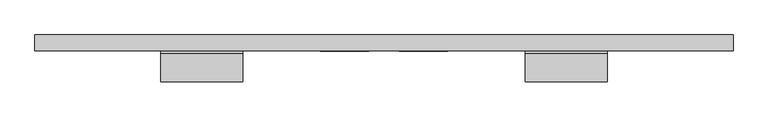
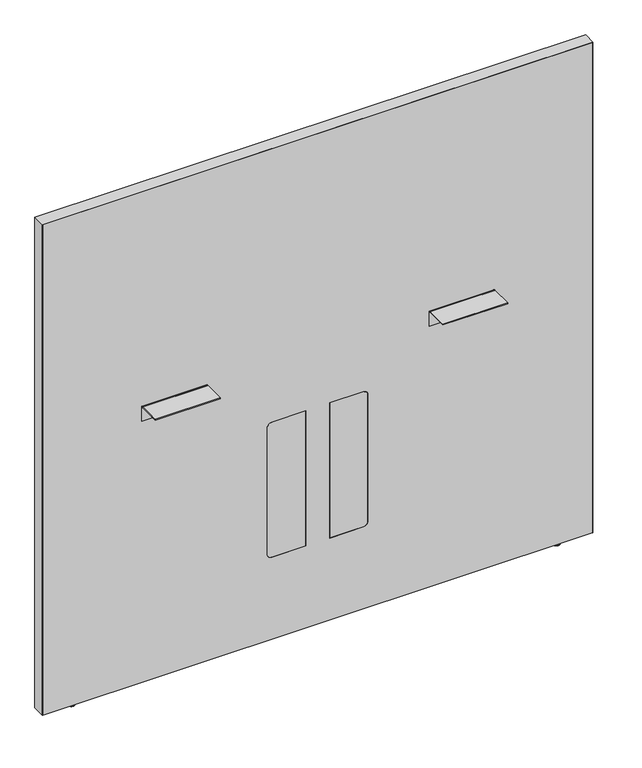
"""IFC4 building model written with IfcOpenShell, lengths in millimetres: furniture geometry, Steelcase - Answer Solution - Boundary Screen - Straight - Spanning : 48H x 51W."""

from ifc_helpers import new_model, si_unit, point, frame, frame_2d, origin, place, context, project, spatial, polyline, circle_curve, ellipse_curve, trimmed, segment, composite_curve, outline, extrude, source, transform, mapped, element, save
from ifc_brep_helpers import plane_surface, cylinder_surface, revolved_surface, advanced_brep


def furniture_ec1c2e94(model_context):
    return source(origin(), model_context, "Body", "SolidModel", [
        advanced_brep(
        [(-340.6902705, -14.8449166, 9.9059849), (-340.6902705, -5.9309607, 9.9059849), (-340.6902705, -23.7588726, 9.9059849), (-340.6902705, -5.9309607, 2.9673238), (-340.6902705, -23.7588726, 2.9673238), (-340.6902705, -6.8982978, 2.9673238), (-340.6902705, -22.7915354, 2.9673238), (-340.6902705, -6.8982978, 1.6569081), (-340.6902705, -22.7915354, 1.6569081), (-340.6902705, -8.5552059, 0.0), (-340.6902705, -21.1346274, 0.0), (-340.6902705, -14.8449166, 0.0)],
        [
            (0, 1),
            (1, 2, circle_curve(frame((-340.6902705, -14.8449166, 9.9059849), z_axis=(0.0, 0.0, 1.0), x_axis=(0.0, 1.0, 0.0)), 8.913956)),
            (2, 0),
            (2, 1, circle_curve(frame((-340.6902705, -14.8449166, 9.9059849), z_axis=(0.0, 0.0, 1.0), x_axis=(0.0, 1.0, 0.0)), 8.913956)),
            (1, 3),
            (3, 4, circle_curve(frame((-340.6902705, -14.8449166, 2.9673238), z_axis=(0.0, 0.0, 1.0), x_axis=(0.0, 1.0, 0.0)), 8.913956)),
            (4, 2),
            (4, 3, circle_curve(frame((-340.6902705, -14.8449166, 2.9673238), z_axis=(0.0, 0.0, 1.0), x_axis=(0.0, 1.0, 0.0)), 8.913956)),
            (3, 5),
            (5, 6, circle_curve(frame((-340.6902705, -14.8449166, 2.9673238), z_axis=(0.0, 0.0, 1.0), x_axis=(0.0, 1.0, 0.0)), 7.9466188)),
            (6, 4),
            (6, 5, circle_curve(frame((-340.6902705, -14.8449166, 2.9673238), z_axis=(0.0, 0.0, 1.0), x_axis=(0.0, 1.0, 0.0)), 7.9466188)),
            (5, 7),
            (7, 8, circle_curve(frame((-340.6902705, -14.8449166, 1.6569081), z_axis=(0.0, 0.0, 1.0), x_axis=(0.0, 1.0, 0.0)), 7.9466188)),
            (8, 6),
            (8, 7, circle_curve(frame((-340.6902705, -14.8449166, 1.6569081), z_axis=(0.0, 0.0, 1.0), x_axis=(0.0, 1.0, 0.0)), 7.9466188)),
            (7, 9, circle_curve(frame((-340.6902705, -8.5552059, 1.6569081), z_axis=(-1.0, 0.0, 0.0), x_axis=(0.0, 1.0, 0.0)), 1.6569081)),
            (9, 10, circle_curve(frame((-340.6902705, -14.8449166, 0.0), z_axis=(0.0, 0.0, 1.0), x_axis=(0.0, 1.0, 0.0)), 6.2897107)),
            (10, 8, circle_curve(frame((-340.6902705, -21.1346274, 1.6569081), z_axis=(-1.0, 0.0, 0.0), x_axis=(0.0, -1.0, 0.0)), 1.6569081)),
            (10, 9, circle_curve(frame((-340.6902705, -14.8449166, 0.0), z_axis=(0.0, 0.0, 1.0), x_axis=(0.0, 1.0, 0.0)), 6.2897107)),
            (9, 11),
            (11, 10),
        ],
        [
            plane_surface(frame((-340.6902705, -14.8449166, 9.9059849), z_axis=(0.0, 0.0, 1.0), x_axis=(0.0, 1.0, 0.0))),
            cylinder_surface(frame((-340.6902705, -14.8449166, 9.9059849), z_axis=(0.0, 0.0, 1.0), x_axis=(0.0, 1.0, 0.0)), 8.913956),
            plane_surface(frame((-340.6902705, -14.8449166, 2.9673238), z_axis=(0.0, 0.0, -1.0), x_axis=(0.0, 1.0, 0.0))),
            cylinder_surface(frame((-340.6902705, -14.8449166, 9.9059849), z_axis=(0.0, 0.0, 1.0), x_axis=(0.0, 1.0, 0.0)), 7.9466188),
            revolved_surface(trimmed(ellipse_curve(frame((-340.6902705, -8.5552059, 1.6569081), z_axis=(1.0, 0.0, 0.0), x_axis=(0.0, 1.0, 0.0)), 1.6569081, 1.6569081), [point((-340.6902705, -8.5552059, 0.0))], [point((-340.6902705, -6.8982978, 1.6569081))], True, "CARTESIAN"), (-340.6902705, -14.8449166, 9.9059849), (0.0, 0.0, 1.0)),
            plane_surface(frame((-340.6902705, -14.8449166, 0.0), z_axis=(0.0, 0.0, -1.0), x_axis=(0.0, 1.0, 0.0))),
        ],
        [
            (0, [[1, 2, 3]]),
            (0, [[-3, 4, -1]]),
            (1, [[-2, 5, 6, 7]]),
            (1, [[-4, -7, 8, -5]]),
            (2, [[-6, 9, 10, 11]]),
            (2, [[-8, -11, 12, -9]]),
            (3, [[-10, 13, 14, 15]]),
            (3, [[-12, -15, 16, -13]]),
            (4, [[-14, 17, 18, 19]]),
            (4, [[-16, -19, 20, -17]]),
            (5, [[-18, 21, 22]]),
            (5, [[-20, -22, -21]]),
        ],
    ),
        extrude(outline(composite_curve([segment(polyline([(-86.8398151, 696.4680019), (-86.8398151, 698.5), (-34.9450855, 698.5)]), True, "CONTINUOUS"), segment(trimmed(circle_curve(frame_2d((-34.9450855, 693.2447477)), 5.2552523), [point((-34.9450855, 698.5))], [point((-29.6898332, 693.2447477))], False, "CARTESIAN"), True, "CONTINUOUS"), segment(polyline([(-29.6898332, 693.2447477), (-29.6898332, 660.4), (-31.7218162, 660.4), (-31.7218162, 693.0058743)]), True, "CONTINUOUS"), segment(trimmed(circle_curve(frame_2d((-35.1839438, 693.0058743)), 3.4621276), [point((-31.7218162, 693.0058743))], [point((-35.1839438, 696.4680019))], True, "CARTESIAN"), True, "CONTINUOUS"), segment(polyline([(-35.1839438, 696.4680019), (-86.8398151, 696.4680019)]), True, "CONTINUOUS")], self_intersect=False)), frame((491.6282189, 0.0, 0.0), z_axis=(1.0, 0.0, 0.0), x_axis=(0.0, 1.0, 0.0)), (0.0, 0.0, 1.0), 152.4000969),
        extrude(outline(composite_curve([segment(polyline([(-86.8398151, 696.4680019), (-86.8398151, 698.5), (-34.9450855, 698.5)]), True, "CONTINUOUS"), segment(trimmed(circle_curve(frame_2d((-34.9450855, 693.2447477)), 5.2552523), [point((-34.9450855, 698.5))], [point((-29.6898332, 693.2447477))], False, "CARTESIAN"), True, "CONTINUOUS"), segment(polyline([(-29.6898332, 693.2447477), (-29.6898332, 660.4), (-31.7218162, 660.4), (-31.7218162, 693.0058743)]), True, "CONTINUOUS"), segment(trimmed(circle_curve(frame_2d((-35.1839438, 693.0058743)), 3.4621276), [point((-31.7218162, 693.0058743))], [point((-35.1839438, 696.4680019))], True, "CARTESIAN"), True, "CONTINUOUS"), segment(polyline([(-35.1839438, 696.4680019), (-86.8398151, 696.4680019)]), True, "CONTINUOUS")], self_intersect=False)), frame((-184.3884581, 0.0, 0.0), z_axis=(1.0, 0.0, 0.0), x_axis=(0.0, 1.0, 0.0)), (0.0, 0.0, 1.0), 152.4000969),
        advanced_brep(
        [(800.3286488, -23.7588726, 9.9059849), (800.3286488, -5.9309607, 9.9059849), (800.3286488, -14.8449166, 9.9059849), (800.3286488, -23.7588726, 2.9673238), (800.3286488, -5.9309607, 2.9673238), (800.3286488, -22.7915354, 2.9673238), (800.3286488, -6.8982978, 2.9673238), (800.3286488, -22.7915354, 1.6569081), (800.3286488, -6.8982978, 1.6569081), (800.3286488, -21.1346274, 0.0), (800.3286488, -8.5552059, 0.0), (800.3286488, -14.8449166, 0.0)],
        [
            (0, 1, circle_curve(frame((800.3286488, -14.8449166, 9.9059849), z_axis=(0.0, 0.0, 1.0), x_axis=(0.0, 1.0, 0.0)), 8.913956)),
            (1, 2),
            (2, 0),
            (1, 0, circle_curve(frame((800.3286488, -14.8449166, 9.9059849), z_axis=(0.0, 0.0, 1.0), x_axis=(0.0, 1.0, 0.0)), 8.913956)),
            (3, 4, circle_curve(frame((800.3286488, -14.8449166, 2.9673238), z_axis=(0.0, 0.0, 1.0), x_axis=(0.0, 1.0, 0.0)), 8.913956)),
            (4, 1),
            (0, 3),
            (4, 3, circle_curve(frame((800.3286488, -14.8449166, 2.9673238), z_axis=(0.0, 0.0, 1.0), x_axis=(0.0, 1.0, 0.0)), 8.913956)),
            (5, 6, circle_curve(frame((800.3286488, -14.8449166, 2.9673238), z_axis=(0.0, 0.0, 1.0), x_axis=(0.0, 1.0, 0.0)), 7.9466188)),
            (6, 4),
            (3, 5),
            (6, 5, circle_curve(frame((800.3286488, -14.8449166, 2.9673238), z_axis=(0.0, 0.0, 1.0), x_axis=(0.0, 1.0, 0.0)), 7.9466188)),
            (7, 8, circle_curve(frame((800.3286488, -14.8449166, 1.6569081), z_axis=(0.0, 0.0, 1.0), x_axis=(0.0, 1.0, 0.0)), 7.9466188)),
            (8, 6),
            (5, 7),
            (8, 7, circle_curve(frame((800.3286488, -14.8449166, 1.6569081), z_axis=(0.0, 0.0, 1.0), x_axis=(0.0, 1.0, 0.0)), 7.9466188)),
            (9, 10, circle_curve(frame((800.3286488, -14.8449166, 0.0), z_axis=(0.0, 0.0, 1.0), x_axis=(0.0, 1.0, 0.0)), 6.2897107)),
            (10, 8, circle_curve(frame((800.3286488, -8.5552059, 1.6569081), z_axis=(1.0, 0.0, 0.0), x_axis=(0.0, 1.0, 0.0)), 1.6569081)),
            (7, 9, circle_curve(frame((800.3286488, -21.1346274, 1.6569081), z_axis=(1.0, 0.0, 0.0), x_axis=(0.0, -1.0, 0.0)), 1.6569081)),
            (10, 9, circle_curve(frame((800.3286488, -14.8449166, 0.0), z_axis=(0.0, 0.0, 1.0), x_axis=(0.0, 1.0, 0.0)), 6.2897107)),
            (11, 10),
            (9, 11),
        ],
        [
            plane_surface(frame((800.3286488, -14.8449166, 9.9059849), z_axis=(0.0, 0.0, 1.0), x_axis=(0.0, 1.0, 0.0))),
            cylinder_surface(frame((800.3286488, -14.8449166, 9.9059849), z_axis=(0.0, 0.0, -1.0), x_axis=(0.0, 1.0, 0.0)), 8.913956),
            plane_surface(frame((800.3286488, -14.8449166, 2.9673238), z_axis=(0.0, 0.0, -1.0), x_axis=(0.0, 1.0, 0.0))),
            cylinder_surface(frame((800.3286488, -14.8449166, 9.9059849), z_axis=(0.0, 0.0, -1.0), x_axis=(0.0, 1.0, 0.0)), 7.9466188),
            revolved_surface(trimmed(ellipse_curve(frame((800.3286488, -8.5552059, 1.6569081), z_axis=(-1.0, 0.0, 0.0), x_axis=(0.0, 1.0, 0.0)), 1.6569081, 1.6569081), [point((800.3286488, -6.8982978, 1.6569081))], [point((800.3286488, -8.5552059, 0.0))], True, "CARTESIAN"), (800.3286488, -14.8449166, 9.9059849), (0.0, 0.0, -1.0)),
            plane_surface(frame((800.3286488, -14.8449166, 0.0), z_axis=(0.0, 0.0, -1.0), x_axis=(0.0, 1.0, 0.0))),
        ],
        [
            (0, [[1, 2, 3]]),
            (0, [[4, -3, -2]]),
            (1, [[5, 6, -1, 7]]),
            (1, [[8, -7, -4, -6]]),
            (2, [[9, 10, -5, 11]]),
            (2, [[12, -11, -8, -10]]),
            (3, [[13, 14, -9, 15]]),
            (3, [[16, -15, -12, -14]]),
            (4, [[17, 18, -13, 19]]),
            (4, [[20, -19, -16, -18]]),
            (5, [[21, -17, 22]]),
            (5, [[-22, -20, -21]]),
        ],
    ),
        advanced_brep(
        [(876.4780168, 0.0, 1229.142118), (876.4780168, 0.0, 9.9059849), (-416.8902221, 0.0, 9.9059849), (-416.8902221, 0.0, 1229.142118), (876.4780168, -29.6898332, 1229.142118), (-416.8902221, -29.6898332, 1229.142118), (-416.8902221, -29.6898332, 9.9059849), (876.4780168, -29.6898332, 9.9059849), (337.7883813, -29.6898332, 549.6162029), (347.9483813, -29.6898332, 539.4562029), (347.9483813, -29.6898332, 223.9362137), (337.7883813, -29.6898332, 213.7762137), (258.1344836, -29.6898332, 213.7762137), (258.1344836, -29.6898332, 549.6162029), (121.849997, -29.6898332, 549.6162029), (201.5038947, -29.6898332, 549.6162029), (201.5038947, -29.6898332, 213.7762137), (121.849997, -29.6898332, 213.7762137), (111.689997, -29.6898332, 223.9362137), (111.689997, -29.6898332, 539.4562029), (258.1344836, -29.0550397, 549.6162029), (337.7883813, -29.0550397, 549.6162029), (258.1344836, -29.0550397, 213.7762137), (337.7883813, -29.0550397, 213.7762137), (347.9483813, -29.0550397, 223.9362137), (347.9483813, -29.0550397, 539.4562029), (121.849997, -29.0550397, 549.6162029), (111.689997, -29.0550397, 539.4562029), (111.689997, -29.0550397, 223.9362137), (121.849997, -29.0550397, 213.7762137), (201.5038947, -29.0550397, 213.7762137), (201.5038947, -29.0550397, 549.6162029)],
        [
            (0, 1),
            (1, 2),
            (2, 3),
            (3, 0),
            (4, 5),
            (5, 6),
            (6, 7),
            (7, 4),
            (8, 9, circle_curve(frame((337.7883813, -29.6898332, 539.4562029), z_axis=(0.0, 1.0, 0.0), x_axis=(0.0, 0.0, 1.0)), 10.16)),
            (9, 10),
            (10, 11, circle_curve(frame((337.7883813, -29.6898332, 223.9362137), z_axis=(0.0, 1.0, 0.0), x_axis=(0.0, 0.0, 1.0)), 10.16)),
            (11, 12),
            (12, 13),
            (13, 8),
            (14, 15),
            (15, 16),
            (16, 17),
            (17, 18, circle_curve(frame((121.849997, -29.6898332, 223.9362137), z_axis=(0.0, 1.0, 0.0), x_axis=(0.0, 0.0, 1.0)), 10.16)),
            (18, 19),
            (19, 14, circle_curve(frame((121.849997, -29.6898332, 539.4562029), z_axis=(0.0, 1.0, 0.0), x_axis=(0.0, 0.0, 1.0)), 10.16)),
            (0, 4),
            (7, 1),
            (6, 2),
            (5, 3),
            (13, 20),
            (20, 21),
            (21, 8),
            (12, 22),
            (22, 20),
            (11, 23),
            (23, 22),
            (10, 24),
            (24, 23, circle_curve(frame((337.7883813, -29.0550397, 223.9362137), z_axis=(0.0, 1.0, 0.0), x_axis=(0.0, 0.0, 1.0)), 10.16)),
            (9, 25),
            (25, 24),
            (21, 25, circle_curve(frame((337.7883813, -29.0550397, 539.4562029), z_axis=(0.0, 1.0, 0.0), x_axis=(0.0, 0.0, 1.0)), 10.16)),
            (26, 27, circle_curve(frame((121.849997, -29.0550397, 539.4562029), z_axis=(0.0, -1.0, 0.0), x_axis=(0.0, 0.0, 1.0)), 10.16)),
            (27, 28),
            (28, 29, circle_curve(frame((121.849997, -29.0550397, 223.9362137), z_axis=(0.0, -1.0, 0.0), x_axis=(0.0, 0.0, 1.0)), 10.16)),
            (29, 30),
            (30, 31),
            (31, 26),
            (19, 27),
            (26, 14),
            (18, 28),
            (17, 29),
            (16, 30),
            (15, 31),
        ],
        [
            plane_surface(frame((876.4780168, 0.0, 1229.142118), z_axis=(0.0, 1.0, 0.0), x_axis=(0.0, 0.0, -1.0))),
            plane_surface(frame((876.4780168, -29.6898332, 1229.142118), z_axis=(0.0, -1.0, 0.0), x_axis=(0.0, 0.0, 1.0))),
            plane_surface(frame((876.4780168, 0.0, 1229.142118), z_axis=(1.0, 0.0, 0.0), x_axis=(0.0, -1.0, 0.0))),
            plane_surface(frame((876.4780168, 0.0, 9.9059849), z_axis=(0.0, 0.0, -1.0), x_axis=(0.0, -1.0, 0.0))),
            plane_surface(frame((-416.8902221, 0.0, 9.9059849), z_axis=(-1.0, 0.0, 0.0), x_axis=(0.0, -1.0, 0.0))),
            plane_surface(frame((-416.8902221, 0.0, 1229.142118), z_axis=(0.0, 0.0, 1.0), x_axis=(0.0, -1.0, 0.0))),
            plane_surface(frame((337.7883813, 0.0, 549.6162029), z_axis=(0.0, 0.0, -1.0), x_axis=(0.0, -1.0, 0.0))),
            plane_surface(frame((258.1344836, 0.0, 549.6162029), z_axis=(1.0, 0.0, 0.0), x_axis=(0.0, -1.0, 0.0))),
            plane_surface(frame((258.1344836, 0.0, 213.7762137), z_axis=(0.0, 0.0, 1.0), x_axis=(0.0, -1.0, 0.0))),
            revolved_surface(polyline([(337.7883813, -29.6898332, 234.0962137), (337.7883813, -29.0550397, 234.0962137)]), (337.7883813, -29.6898332, 223.9362137), (0.0, -1.0, 0.0)),
            plane_surface(frame((347.9483813, 0.0, 223.9362137), z_axis=(-1.0, 0.0, 0.0), x_axis=(0.0, -1.0, 0.0))),
            revolved_surface(polyline([(337.7883813, -29.6898332, 549.6162029), (337.7883813, -29.0550397, 549.6162029)]), (337.7883813, -29.6898332, 539.4562029), (0.0, -1.0, 0.0)),
            plane_surface(frame((347.9483813, -29.0550397, 549.6162029), z_axis=(0.0, -1.0, 0.0), x_axis=(0.0, 0.0, 1.0))),
            revolved_surface(polyline([(121.849997, -29.6898332, 549.6162029), (121.849997, -29.0550397, 549.6162029)]), (121.849997, -29.6898332, 539.4562029), (0.0, -1.0, 0.0)),
            plane_surface(frame((111.689997, 0.0, 539.4562029), z_axis=(1.0, 0.0, 0.0), x_axis=(0.0, -1.0, 0.0))),
            revolved_surface(polyline([(121.849997, -29.6898332, 234.0962137), (121.849997, -29.0550397, 234.0962137)]), (121.849997, -29.6898332, 223.9362137), (0.0, -1.0, 0.0)),
            plane_surface(frame((121.849997, 0.0, 213.7762137), z_axis=(0.0, 0.0, 1.0), x_axis=(0.0, -1.0, 0.0))),
            plane_surface(frame((201.5038947, 0.0, 213.7762137), z_axis=(-1.0, 0.0, 0.0), x_axis=(0.0, -1.0, 0.0))),
            plane_surface(frame((201.5038947, 0.0, 549.6162029), z_axis=(0.0, 0.0, -1.0), x_axis=(0.0, -1.0, 0.0))),
        ],
        [
            (0, [[1, 2, 3, 4]]),
            (1, [[5, 6, 7, 8], [9, 10, 11, 12, 13, 14], [15, 16, 17, 18, 19, 20]]),
            (2, [[-1, 21, -8, 22]]),
            (3, [[-2, -22, -7, 23]]),
            (4, [[-3, -23, -6, 24]]),
            (5, [[-4, -24, -5, -21]]),
            (6, [[-14, 25, 26, 27]]),
            (7, [[-13, 28, 29, -25]]),
            (8, [[-12, 30, 31, -28]]),
            (9, [[-11, 32, 33, -30]]),
            (10, [[-10, 34, 35, -32]]),
            (11, [[-9, -27, 36, -34]]),
            (12, [[-26, -29, -31, -33, -35, -36]]),
            (12, [[37, 38, 39, 40, 41, 42]]),
            (13, [[-20, 43, -37, 44]]),
            (14, [[-19, 45, -38, -43]]),
            (15, [[-18, 46, -39, -45]]),
            (16, [[-17, 47, -40, -46]]),
            (17, [[-16, 48, -41, -47]]),
            (18, [[-15, -44, -42, -48]]),
        ],
    ),
        extrude(outline(composite_curve([segment(polyline([(549.6162029, 337.7883813), (549.6162029, 258.1344836), (213.7762137, 258.1344836), (213.7762137, 337.7883813)]), True, "CONTINUOUS"), segment(trimmed(circle_curve(frame_2d((223.9362137, 337.7883813)), 10.16), [point((213.7762137, 337.7883813))], [point((223.9362137, 347.9483813))], False, "CARTESIAN"), True, "CONTINUOUS"), segment(polyline([(223.9362137, 347.9483813), (539.4562029, 347.9483813)]), True, "CONTINUOUS"), segment(trimmed(circle_curve(frame_2d((539.4562029, 337.7883813)), 10.16), [point((539.4562029, 347.9483813))], [point((549.6162029, 337.7883813))], False, "CARTESIAN"), True, "CONTINUOUS")], self_intersect=False)), frame((0.0, -29.6898332, 0.0), z_axis=(0.0, 1.0, 0.0), x_axis=(0.0, 0.0, 1.0)), (0.0, 0.0, 1.0), 0.6347935),
        extrude(outline(composite_curve([segment(trimmed(circle_curve(frame_2d((539.4562029, 121.849997)), 10.16), [point((549.6162029, 121.849997))], [point((539.4562029, 111.689997))], False, "CARTESIAN"), True, "CONTINUOUS"), segment(polyline([(539.4562029, 111.689997), (223.9362137, 111.689997)]), True, "CONTINUOUS"), segment(trimmed(circle_curve(frame_2d((223.9362137, 121.849997)), 10.16), [point((223.9362137, 111.689997))], [point((213.7762137, 121.849997))], False, "CARTESIAN"), True, "CONTINUOUS"), segment(polyline([(213.7762137, 121.849997), (213.7762137, 201.5038947), (549.6162029, 201.5038947), (549.6162029, 121.849997)]), True, "CONTINUOUS")], self_intersect=False)), frame((0.0, -29.6898332, 0.0), z_axis=(0.0, 1.0, 0.0), x_axis=(0.0, 0.0, 1.0)), (0.0, 0.0, 1.0), 0.6347935),
        extrude(outline(polyline([(1230.122, 877.5191891), (1230.122, -417.8808109), (9.9059849, -417.8808109), (9.9059849, -416.8902221), (1229.142118, -416.8902221), (1229.142118, 876.4780168), (9.9059849, 876.4780168), (9.9059849, 877.5191891), (1230.122, 877.5191891)])), frame((0.0, -29.6898332, 0.0), z_axis=(0.0, 1.0, 0.0), x_axis=(0.0, 0.0, 1.0)), (0.0, 0.0, 1.0), 29.6898332),
    ])


if __name__ == "__main__":
    model = new_model("IFC4")
    model_context = context("Model", 3, world=origin())
    ifc_project = project(units=[si_unit("LENGTHUNIT", "METRE", prefix="MILLI")], contexts=[model_context])
    site = spatial("IfcSite", under=ifc_project)
    building = spatial("IfcBuilding", under=site)
    placement = place(None, origin())
    furniture_shape = furniture_ec1c2e94(model_context)
    element("IfcFurniture", 1, ObjectType="Steelcase - Answer Solution - Boundary Screen - Straight - Spanning : 48H x 51W", at=placement, inside=building, context=model_context, shape_type="MappedRepresentation", body=[
        mapped(furniture_shape, transform((0.0, 0.0, 0.0), x_axis=(1.0, 0.0, 0.0), y_axis=(0.0, 1.0, 0.0), z_axis=(0.0, 0.0, 1.0))),
    ])
    save(model, "model.ifc")
